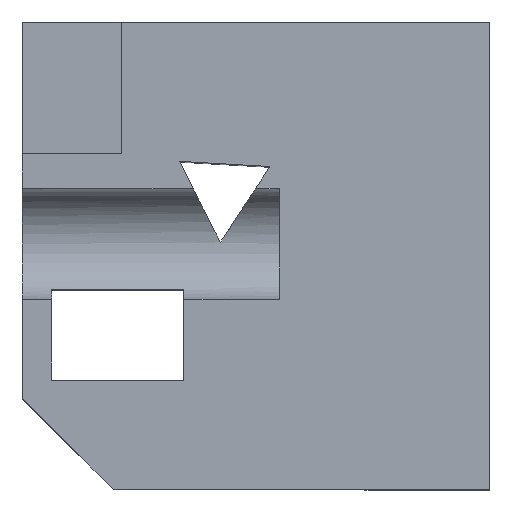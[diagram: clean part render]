
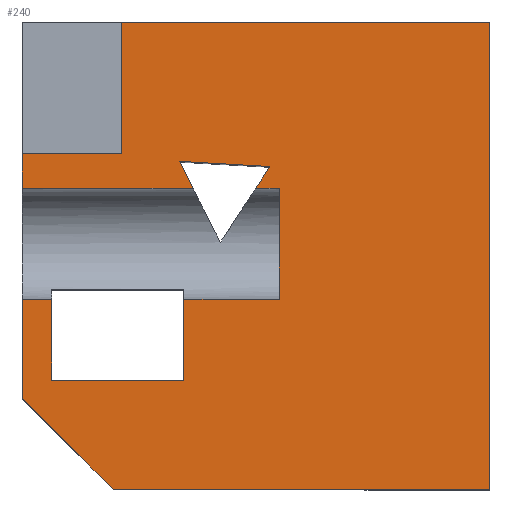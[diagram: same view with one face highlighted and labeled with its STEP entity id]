
A CAD part, top view. The second image highlights one B-rep face of the part: STEP entity #240.
In plain terms, the highlighted planar face has unit normal (0, 0, 1).
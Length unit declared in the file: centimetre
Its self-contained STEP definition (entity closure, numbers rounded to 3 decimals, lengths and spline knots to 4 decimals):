
#3 = EDGE_CURVE ( 'NONE', #393, #448, #97, .T. ) ;
#15 = CARTESIAN_POINT ( 'NONE',  ( 62.57, 406.6158, 1000. ) ) ;
#26 = ORIENTED_EDGE ( 'NONE', *, *, #392, .T. ) ;
#29 = DIRECTION ( 'NONE',  ( 0., -1., 0. ) ) ;
#38 = DIRECTION ( 'NONE',  ( 0., -1., 0. ) ) ;
#69 = DIRECTION ( 'NONE',  ( -1., 0., 0. ) ) ;
#77 = DIRECTION ( 'NONE',  ( 0.998, -0.056, 0. ) ) ;
#79 = VERTEX_POINT ( 'NONE', #484 ) ;
#88 = LINE ( 'NONE', #516, #851 ) ;
#97 = LINE ( 'NONE', #961, #390 ) ;
#99 = ORIENTED_EDGE ( 'NONE', *, *, #499, .T. ) ;
#102 = VECTOR ( 'NONE', #619, 100. ) ;
#109 = VERTEX_POINT ( 'NONE', #685 ) ;
#110 = LINE ( 'NONE', #890, #409 ) ;
#146 = LINE ( 'NONE', #949, #251 ) ;
#149 = VECTOR ( 'NONE', #69, 100. ) ;
#152 = CARTESIAN_POINT ( 'NONE',  ( 529.8959, 690.7337, 1000. ) ) ;
#161 = EDGE_CURVE ( 'NONE', #643, #673, #752, .T. ) ;
#164 = VERTEX_POINT ( 'NONE', #989 ) ;
#165 = CARTESIAN_POINT ( 'NONE',  ( 212.152, 718.5154, 1000. ) ) ;
#185 = CARTESIAN_POINT ( 'NONE',  ( 345.7213, 406.6158, 1000. ) ) ;
#198 = EDGE_CURVE ( 'NONE', #903, #1017, #514, .T. ) ;
#207 = CARTESIAN_POINT ( 'NONE',  ( 212.152, 1000., 1000. ) ) ;
#228 = DIRECTION ( 'NONE',  ( 0., 1., 0. ) ) ;
#236 = LINE ( 'NONE', #891, #366 ) ;
#237 = VERTEX_POINT ( 'NONE', #207 ) ;
#240 = ADVANCED_FACE ( 'NONE', ( #1028 ), #536, .T. ) ;
#241 = CARTESIAN_POINT ( 'NONE',  ( 0., 1000., 1000. ) ) ;
#242 = LINE ( 'NONE', #722, #387 ) ;
#251 = VECTOR ( 'NONE', #228, 100. ) ;
#255 = VERTEX_POINT ( 'NONE', #931 ) ;
#261 = CARTESIAN_POINT ( 'NONE',  ( 0., 1000., 1000. ) ) ;
#264 = EDGE_CURVE ( 'NONE', #974, #673, #304, .T. ) ;
#266 = VECTOR ( 'NONE', #1019, 100. ) ;
#273 = LINE ( 'NONE', #529, #921 ) ;
#275 = EDGE_CURVE ( 'NONE', #686, #816, #541, .T. ) ;
#284 = CARTESIAN_POINT ( 'NONE',  ( 0., 194.2409, 1000. ) ) ;
#285 = CARTESIAN_POINT ( 'NONE',  ( 62.57, 233.2401, 1000. ) ) ;
#287 = CARTESIAN_POINT ( 'NONE',  ( 549.9279, 406.6158, 1000. ) ) ;
#291 = CARTESIAN_POINT ( 'NONE',  ( 549.9279, 643.7174, 1000. ) ) ;
#294 = ORIENTED_EDGE ( 'NONE', *, *, #3, .T. ) ;
#296 = LINE ( 'NONE', #470, #102 ) ;
#297 = VECTOR ( 'NONE', #29, 100. ) ;
#304 = LINE ( 'NONE', #291, #601 ) ;
#343 = ORIENTED_EDGE ( 'NONE', *, *, #976, .T. ) ;
#353 = EDGE_CURVE ( 'NONE', #643, #857, #865, .T. ) ;
#355 = EDGE_CURVE ( 'NONE', #857, #237, #296, .T. ) ;
#366 = VECTOR ( 'NONE', #498, 100. ) ;
#369 = ORIENTED_EDGE ( 'NONE', *, *, #732, .T. ) ;
#374 = EDGE_CURVE ( 'NONE', #757, #907, #146, .T. ) ;
#378 = CARTESIAN_POINT ( 'NONE',  ( 194.2409, 0., 1000. ) ) ;
#387 = VECTOR ( 'NONE', #77, 100. ) ;
#390 = VECTOR ( 'NONE', #821, 100. ) ;
#392 = EDGE_CURVE ( 'NONE', #79, #393, #242, .T. ) ;
#393 = VERTEX_POINT ( 'NONE', #152 ) ;
#409 = VECTOR ( 'NONE', #586, 100. ) ;
#412 = LINE ( 'NONE', #875, #526 ) ;
#429 = VECTOR ( 'NONE', #689, 100. ) ;
#430 = EDGE_CURVE ( 'NONE', #255, #686, #236, .T. ) ;
#448 = VERTEX_POINT ( 'NONE', #727 ) ;
#451 = DIRECTION ( 'NONE',  ( 1., 0., 0. ) ) ;
#453 = DIRECTION ( 'NONE',  ( 1., 0., 0. ) ) ;
#465 = CARTESIAN_POINT ( 'NONE',  ( 0., 0., 1000. ) ) ;
#468 = ORIENTED_EDGE ( 'NONE', *, *, #264, .F. ) ;
#470 = CARTESIAN_POINT ( 'NONE',  ( 212.152, 718.5154, 1000. ) ) ;
#481 = ORIENTED_EDGE ( 'NONE', *, *, #650, .T. ) ;
#484 = CARTESIAN_POINT ( 'NONE',  ( 336.3155, 701.6766, 1000. ) ) ;
#498 = DIRECTION ( 'NONE',  ( 0., -1., 0. ) ) ;
#499 = EDGE_CURVE ( 'NONE', #164, #736, #634, .T. ) ;
#502 = ORIENTED_EDGE ( 'NONE', *, *, #430, .T. ) ;
#514 = LINE ( 'NONE', #593, #297 ) ;
#516 = CARTESIAN_POINT ( 'NONE',  ( 549.9279, 643.7174, 1000. ) ) ;
#524 = DIRECTION ( 'NONE',  ( 0., -1., 0. ) ) ;
#526 = VECTOR ( 'NONE', #864, 100. ) ;
#529 = CARTESIAN_POINT ( 'NONE',  ( 345.7213, 233.2401, 1000. ) ) ;
#536 = PLANE ( 'NONE',  #916 ) ;
#539 = EDGE_CURVE ( 'NONE', #109, #757, #818, .T. ) ;
#541 = LINE ( 'NONE', #287, #149 ) ;
#554 = LINE ( 'NONE', #241, #620 ) ;
#556 = VECTOR ( 'NONE', #38, 100. ) ;
#557 = VERTEX_POINT ( 'NONE', #378 ) ;
#569 = CARTESIAN_POINT ( 'NONE',  ( 336.3155, 701.6766, 1000. ) ) ;
#586 = DIRECTION ( 'NONE',  ( -1., 0., 0. ) ) ;
#593 = CARTESIAN_POINT ( 'NONE',  ( 0., 1000., 1000. ) ) ;
#599 = VECTOR ( 'NONE', #975, 100. ) ;
#601 = VECTOR ( 'NONE', #625, 100. ) ;
#613 = ORIENTED_EDGE ( 'NONE', *, *, #835, .T. ) ;
#619 = DIRECTION ( 'NONE',  ( 0., 1., 0. ) ) ;
#620 = VECTOR ( 'NONE', #623, 100. ) ;
#623 = DIRECTION ( 'NONE',  ( -1., 0., 0. ) ) ;
#625 = DIRECTION ( 'NONE',  ( -1., 0., 0. ) ) ;
#634 = LINE ( 'NONE', #814, #871 ) ;
#643 = VERTEX_POINT ( 'NONE', #703 ) ;
#645 = DIRECTION ( 'NONE',  ( 0., 1., 0. ) ) ;
#650 = EDGE_CURVE ( 'NONE', #736, #237, #554, .T. ) ;
#669 = LINE ( 'NONE', #569, #599 ) ;
#672 = VECTOR ( 'NONE', #453, 100. ) ;
#673 = VERTEX_POINT ( 'NONE', #794 ) ;
#678 = ORIENTED_EDGE ( 'NONE', *, *, #539, .T. ) ;
#685 = CARTESIAN_POINT ( 'NONE',  ( 345.7213, 233.2401, 1000. ) ) ;
#686 = VERTEX_POINT ( 'NONE', #720 ) ;
#689 = DIRECTION ( 'NONE',  ( -1., 0., 0. ) ) ;
#694 = LINE ( 'NONE', #843, #672 ) ;
#701 = CARTESIAN_POINT ( 'NONE',  ( 0., 718.5154, 1000. ) ) ;
#703 = CARTESIAN_POINT ( 'NONE',  ( 0., 718.5154, 1000. ) ) ;
#713 = ORIENTED_EDGE ( 'NONE', *, *, #905, .F. ) ;
#720 = CARTESIAN_POINT ( 'NONE',  ( 549.9279, 406.6158, 1000. ) ) ;
#722 = CARTESIAN_POINT ( 'NONE',  ( 529.8959, 690.7337, 1000. ) ) ;
#727 = CARTESIAN_POINT ( 'NONE',  ( 499.0878, 643.7174, 1000. ) ) ;
#732 = EDGE_CURVE ( 'NONE', #1017, #557, #412, .T. ) ;
#736 = VERTEX_POINT ( 'NONE', #959 ) ;
#745 = ORIENTED_EDGE ( 'NONE', *, *, #355, .F. ) ;
#752 = LINE ( 'NONE', #261, #556 ) ;
#757 = VERTEX_POINT ( 'NONE', #880 ) ;
#793 = ORIENTED_EDGE ( 'NONE', *, *, #161, .T. ) ;
#794 = CARTESIAN_POINT ( 'NONE',  ( 0., 643.7174, 1000. ) ) ;
#814 = CARTESIAN_POINT ( 'NONE',  ( 1000., 1000., 1000. ) ) ;
#815 = ORIENTED_EDGE ( 'NONE', *, *, #374, .T. ) ;
#816 = VERTEX_POINT ( 'NONE', #185 ) ;
#817 = CARTESIAN_POINT ( 'NONE',  ( 0., 406.6158, 1000. ) ) ;
#818 = LINE ( 'NONE', #285, #429 ) ;
#821 = DIRECTION ( 'NONE',  ( -0.548, -0.836, 0. ) ) ;
#824 = ORIENTED_EDGE ( 'NONE', *, *, #275, .T. ) ;
#830 = DIRECTION ( 'NONE',  ( -1., 0., 0. ) ) ;
#833 = CARTESIAN_POINT ( 'NONE',  ( 365.5479, 643.7174, 1000. ) ) ;
#835 = EDGE_CURVE ( 'NONE', #974, #79, #669, .T. ) ;
#842 = ORIENTED_EDGE ( 'NONE', *, *, #198, .T. ) ;
#843 = CARTESIAN_POINT ( 'NONE',  ( 0., 0., 1000. ) ) ;
#846 = ORIENTED_EDGE ( 'NONE', *, *, #353, .F. ) ;
#849 = DIRECTION ( 'NONE',  ( 0., 0., 1. ) ) ;
#851 = VECTOR ( 'NONE', #830, 100. ) ;
#857 = VERTEX_POINT ( 'NONE', #165 ) ;
#864 = DIRECTION ( 'NONE',  ( 0.707, -0.707, 0. ) ) ;
#865 = LINE ( 'NONE', #701, #266 ) ;
#871 = VECTOR ( 'NONE', #645, 100. ) ;
#875 = CARTESIAN_POINT ( 'NONE',  ( 97.1205, 97.1205, 1000. ) ) ;
#880 = CARTESIAN_POINT ( 'NONE',  ( 62.57, 233.2401, 1000. ) ) ;
#890 = CARTESIAN_POINT ( 'NONE',  ( 549.9279, 406.6158, 1000. ) ) ;
#891 = CARTESIAN_POINT ( 'NONE',  ( 549.9279, 0., 1000. ) ) ;
#903 = VERTEX_POINT ( 'NONE', #817 ) ;
#905 = EDGE_CURVE ( 'NONE', #255, #448, #88, .T. ) ;
#907 = VERTEX_POINT ( 'NONE', #15 ) ;
#914 = EDGE_CURVE ( 'NONE', #907, #903, #110, .T. ) ;
#916 = AXIS2_PLACEMENT_3D ( 'NONE', #465, #849, #451 ) ;
#921 = VECTOR ( 'NONE', #524, 100. ) ;
#931 = CARTESIAN_POINT ( 'NONE',  ( 549.9279, 643.7174, 1000. ) ) ;
#945 = ORIENTED_EDGE ( 'NONE', *, *, #914, .T. ) ;
#949 = CARTESIAN_POINT ( 'NONE',  ( 62.57, 233.2401, 1000. ) ) ;
#950 = EDGE_LOOP ( 'NONE', ( #815, #945, #842, #369, #343, #99, #481, #745, #846, #793, #468, #613, #26, #294, #713, #502, #824, #1025, #678 ) ) ;
#959 = CARTESIAN_POINT ( 'NONE',  ( 1000., 1000., 1000. ) ) ;
#961 = CARTESIAN_POINT ( 'NONE',  ( 423.629, 528.5596, 1000. ) ) ;
#974 = VERTEX_POINT ( 'NONE', #833 ) ;
#975 = DIRECTION ( 'NONE',  ( -0.45, 0.893, 0. ) ) ;
#976 = EDGE_CURVE ( 'NONE', #557, #164, #694, .T. ) ;
#989 = CARTESIAN_POINT ( 'NONE',  ( 1000., 0., 1000. ) ) ;
#1017 = VERTEX_POINT ( 'NONE', #284 ) ;
#1019 = DIRECTION ( 'NONE',  ( 1., 0., 0. ) ) ;
#1022 = EDGE_CURVE ( 'NONE', #816, #109, #273, .T. ) ;
#1025 = ORIENTED_EDGE ( 'NONE', *, *, #1022, .T. ) ;
#1028 = FACE_OUTER_BOUND ( 'NONE', #950, .T. ) ;
